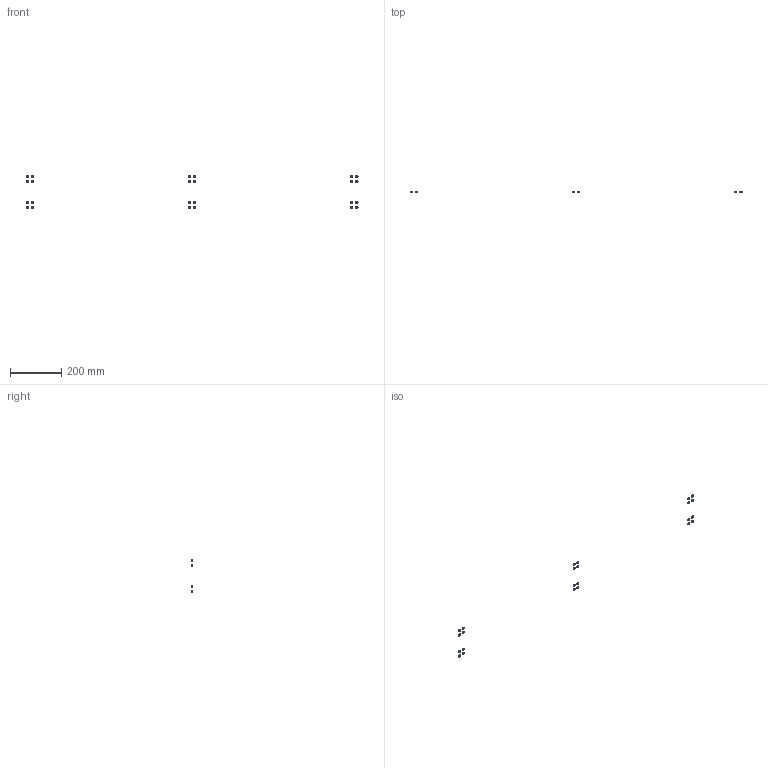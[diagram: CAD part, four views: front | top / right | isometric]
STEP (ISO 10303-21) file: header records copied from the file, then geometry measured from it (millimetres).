
FILE_DESCRIPTION(/* description */ (''),/* implementation_level */ '2;1');
FILE_NAME(/* name */ 'FRE573~1',/* time_stamp */ '2014-02-14T19:34:23+01:00',/* author */ (''),/* organization */ (''),/* preprocessor_version */ 'ST-DEVELOPER v14',/* originating_system */ '',/* authorisation */ '');
FILE_SCHEMA (('AUTOMOTIVE_DESIGN'));
Length unit declared in the file: millimetre
Products named in the file (2): Document; washer DIN125-like, form A, M5
Assembly tree (12 placements, depth 2):
  Document
    washer DIN125-like, form A, M5  x12
Bounding box: 1290 x 1 x 130 mm (x, y, z)
Surface area: 3870.5 mm2 (no closed solid volume)
Topology: 0 solids, 144 shells, 144 faces, 480 edges, 480 vertices
Faces by surface type: bspline 96, plane 48
Entity records: 6559 total; most frequent: CARTESIAN_POINT 3317, B_SPLINE_CURVE_WITH_KNOTS 312, ORIENTED_EDGE 260, PCURVE 260, DEFINITIONAL_REPRESENTATION 260, SURFACE_CURVE 260, EDGE_CURVE 260, VERTEX_POINT 260
